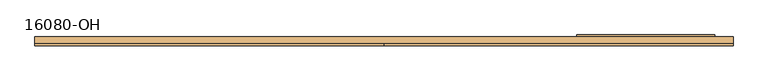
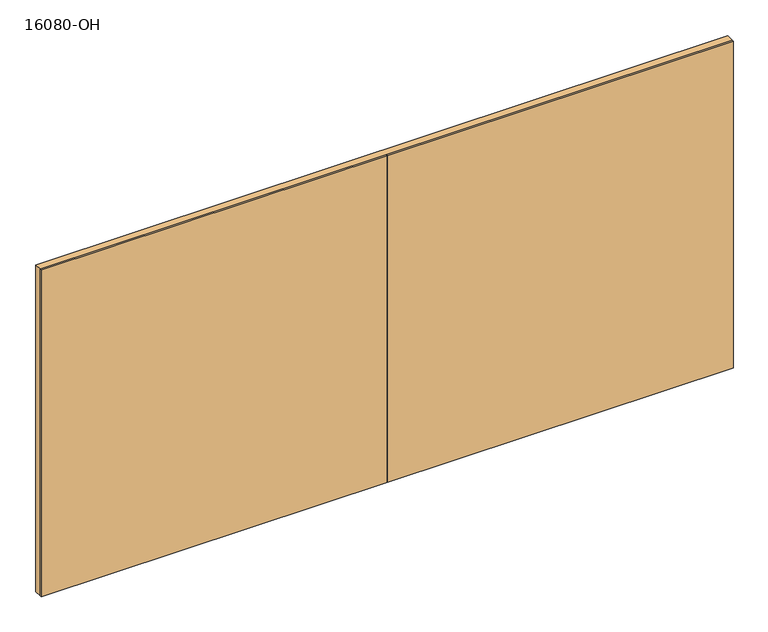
"""IFC4 building model written with IfcOpenShell, lengths in millimetres: door geometry, Upward sectional garage door : 16080-OH."""

from ifc_helpers import new_model, si_unit, frame, origin, origin_with_axes, place, context, project, spatial, polyline, ellipse_curve, outline, extrude, faceted_brep, source, transform, mapped, element, save
from ifc_brep_helpers import plane_surface, cylinder_surface, advanced_brep


def door_16080_oh_d65ba709(model_context):
    return source(origin(), model_context, "Body", "SolidModel", [
        advanced_brep(
        [(2308.225, -141.2875, 1889.125), (2298.7, -150.8125, 1898.65), (2298.7, -150.8125, 2298.7), (2308.225, -141.2875, 2308.225), (2308.225, -138.1125, 2308.225), (2308.225, -138.1125, 1889.125), (2311.4, -150.8125, 1885.95), (2311.4, -138.1125, 1885.95), (2311.4, -138.1125, 2311.4), (2311.4, -150.8125, 2311.4), (1358.9, -150.8125, 2298.7), (1349.375, -141.2875, 2308.225), (1349.375, -138.1125, 2308.225), (1346.2, -138.1125, 2311.4), (1346.2, -150.8125, 2311.4), (1358.9, -150.8125, 1898.65), (1349.375, -141.2875, 1889.125), (1349.375, -138.1125, 1889.125), (1346.2, -138.1125, 1885.95), (1346.2, -150.8125, 1885.95)],
        [
            (0, 1, ellipse_curve(frame((2308.225, -150.8125, 1889.125), z_axis=(0.7071067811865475, 0.0, 0.7071067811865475), x_axis=(0.7071067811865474, 0.0, -0.7071067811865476)), 13.4703842, 9.525)),
            (1, 2),
            (2, 3, ellipse_curve(frame((2308.225, -150.8125, 2308.225), z_axis=(0.7071067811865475, 0.0, -0.7071067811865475), x_axis=(-0.7071067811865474, 0.0, -0.7071067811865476)), 13.4703842, 9.525)),
            (3, 0),
            (3, 4),
            (4, 5),
            (5, 0),
            (6, 7),
            (7, 8),
            (8, 9),
            (9, 6),
            (2, 10),
            (10, 11, ellipse_curve(frame((1349.375, -150.8125, 2308.225), z_axis=(0.7071067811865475, 0.0, 0.7071067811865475), x_axis=(0.7071067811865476, 0.0, -0.7071067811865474)), 13.4703842, 9.525)),
            (11, 3),
            (11, 12),
            (12, 4),
            (8, 13),
            (13, 14),
            (14, 9),
            (10, 15),
            (15, 16, ellipse_curve(frame((1349.375, -150.8125, 1889.125), z_axis=(-0.7071067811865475, 0.0, 0.7071067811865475), x_axis=(0.7071067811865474, 0.0, 0.7071067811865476)), 13.4703842, 9.525)),
            (16, 11),
            (16, 17),
            (17, 12),
            (13, 18),
            (18, 19),
            (19, 14),
            (19, 6),
            (1, 15),
            (0, 16),
            (5, 17),
            (7, 18),
        ],
        [
            cylinder_surface(frame((2308.225, -150.8125, 1885.95), z_axis=(0.0, 0.0, -1.0), x_axis=(1.0, 0.0, 0.0)), 9.525),
            plane_surface(frame((2308.225, -141.2875, 1889.125), z_axis=(-1.0, 0.0, 0.0), x_axis=(0.0, 0.0, 1.0))),
            plane_surface(frame((2311.4, -138.1125, 1885.95), z_axis=(1.0, 0.0, 0.0), x_axis=(0.0, 0.0, 1.0))),
            cylinder_surface(frame((2311.4, -150.8125, 2308.225), z_axis=(1.0, 0.0, 0.0), x_axis=(0.0, 0.0, 1.0)), 9.525),
            plane_surface(frame((2308.225, -141.2875, 2308.225), z_axis=(0.0, 0.0, -1.0), x_axis=(-1.0, 0.0, 0.0))),
            plane_surface(frame((2311.4, -138.1125, 2311.4), z_axis=(0.0, 0.0, 1.0), x_axis=(-1.0, 0.0, 0.0))),
            cylinder_surface(frame((1349.375, -150.8125, 2311.4), z_axis=(0.0, 0.0, 1.0), x_axis=(-1.0, 0.0, 0.0)), 9.525),
            plane_surface(frame((1349.375, -141.2875, 2308.225), z_axis=(1.0, 0.0, 0.0), x_axis=(0.0, 0.0, -1.0))),
            plane_surface(frame((1346.2, -138.1125, 2311.4), z_axis=(-1.0, 0.0, 0.0), x_axis=(0.0, 0.0, -1.0))),
            plane_surface(frame((1346.2, -150.8125, 1885.95), z_axis=(0.0, -1.0, 0.0), x_axis=(1.0, 0.0, 0.0))),
            cylinder_surface(frame((1346.2, -150.8125, 1889.125), z_axis=(-1.0, 0.0, 0.0), x_axis=(0.0, 0.0, -1.0)), 9.525),
            plane_surface(frame((1349.375, -141.2875, 1889.125), z_axis=(0.0, 0.0, 1.0), x_axis=(1.0, 0.0, 0.0))),
            plane_surface(frame((1349.375, -138.1125, 1889.125), z_axis=(0.0, 1.0, 0.0), x_axis=(1.0, 0.0, 0.0))),
            plane_surface(frame((1346.2, -138.1125, 1885.95), z_axis=(0.0, 0.0, -1.0), x_axis=(1.0, 0.0, 0.0))),
        ],
        [
            (0, [[1, 2, 3, 4]]),
            (1, [[-4, 5, 6, 7]]),
            (2, [[8, 9, 10, 11]]),
            (3, [[-3, 12, 13, 14]]),
            (4, [[-5, -14, 15, 16]]),
            (5, [[-10, 17, 18, 19]]),
            (6, [[-13, 20, 21, 22]]),
            (7, [[-15, -22, 23, 24]]),
            (8, [[-18, 25, 26, 27]]),
            (9, [[-11, -19, -27, 28], [-2, 29, -20, -12]]),
            (10, [[-1, 30, -21, -29]]),
            (11, [[-7, 31, -23, -30]]),
            (12, [[-9, 32, -25, -17], [-6, -16, -24, -31]]),
            (13, [[-8, -28, -26, -32]]),
        ],
    ),
        advanced_brep(
        [(2308.225, -141.2875, 1768.475), (2308.225, -138.1125, 1768.475), (2308.225, -138.1125, 1009.65), (2308.225, -141.2875, 1009.65), (2298.7, -150.8125, 1019.175), (2298.7, -150.8125, 1758.95), (2311.4, -138.1125, 1771.65), (2311.4, -150.8125, 1771.65), (2311.4, -150.8125, 1006.475), (2311.4, -138.1125, 1006.475), (1349.375, -138.1125, 1009.65), (1349.375, -141.2875, 1009.65), (1358.9, -150.8125, 1019.175), (1346.2, -150.8125, 1006.475), (1346.2, -138.1125, 1006.475), (1349.375, -138.1125, 1768.475), (1349.375, -141.2875, 1768.475), (1358.9, -150.8125, 1758.95), (1346.2, -150.8125, 1771.65), (1346.2, -138.1125, 1771.65)],
        [
            (0, 1),
            (1, 2),
            (2, 3),
            (3, 0),
            (3, 4, ellipse_curve(frame((2308.225, -150.8125, 1009.65), z_axis=(0.7071067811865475, 0.0, 0.7071067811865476), x_axis=(-0.7071067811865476, 0.0, 0.7071067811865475)), 13.4703842, 9.525)),
            (4, 5),
            (5, 0, ellipse_curve(frame((2308.225, -150.8125, 1768.475), z_axis=(0.7071067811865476, 0.0, -0.7071067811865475), x_axis=(0.7071067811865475, 0.0, 0.7071067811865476)), 13.4703842, 9.525)),
            (6, 7),
            (7, 8),
            (8, 9),
            (9, 6),
            (2, 10),
            (10, 11),
            (11, 3),
            (11, 12, ellipse_curve(frame((1349.375, -150.8125, 1009.65), z_axis=(0.7071067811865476, 0.0, -0.7071067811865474), x_axis=(0.7071067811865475, 0.0, 0.7071067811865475)), 13.4703842, 9.525)),
            (12, 4),
            (8, 13),
            (13, 14),
            (14, 9),
            (10, 15),
            (15, 16),
            (16, 11),
            (16, 17, ellipse_curve(frame((1349.375, -150.8125, 1768.475), z_axis=(-0.7071067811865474, 0.0, -0.7071067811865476), x_axis=(0.7071067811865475, 0.0, -0.7071067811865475)), 13.4703842, 9.525)),
            (17, 12),
            (13, 18),
            (18, 19),
            (19, 14),
            (19, 6),
            (1, 15),
            (0, 16),
            (5, 17),
            (7, 18),
        ],
        [
            plane_surface(frame((2308.225, -138.1125, 1768.475), z_axis=(-1.0, 0.0, 0.0), x_axis=(0.0, 0.0, -1.0))),
            cylinder_surface(frame((2308.225, -150.8125, 1771.65), z_axis=(0.0, 0.0, 1.0), x_axis=(-1.0, 0.0, 0.0)), 9.525),
            plane_surface(frame((2311.4, -150.8125, 1771.65), z_axis=(1.0, 0.0, 0.0), x_axis=(0.0, 0.0, -1.0))),
            plane_surface(frame((2308.225, -138.1125, 1009.65), z_axis=(0.0, 0.0, 1.0), x_axis=(-1.0, 0.0, 0.0))),
            cylinder_surface(frame((2311.4, -150.8125, 1009.65), z_axis=(1.0, 0.0, 0.0), x_axis=(0.0, 0.0, 1.0)), 9.525),
            plane_surface(frame((2311.4, -150.8125, 1006.475), z_axis=(0.0, 0.0, -1.0), x_axis=(-1.0, 0.0, 0.0))),
            plane_surface(frame((1349.375, -138.1125, 1009.65), z_axis=(1.0, 0.0, 0.0), x_axis=(0.0, 0.0, 1.0))),
            cylinder_surface(frame((1349.375, -150.8125, 1006.475), z_axis=(0.0, 0.0, -1.0), x_axis=(1.0, 0.0, 0.0)), 9.525),
            plane_surface(frame((1346.2, -150.8125, 1006.475), z_axis=(-1.0, 0.0, 0.0), x_axis=(0.0, 0.0, 1.0))),
            plane_surface(frame((1346.2, -138.1125, 1771.65), z_axis=(0.0, 1.0, 0.0), x_axis=(1.0, 0.0, 0.0))),
            plane_surface(frame((1349.375, -138.1125, 1768.475), z_axis=(0.0, 0.0, -1.0), x_axis=(1.0, 0.0, 0.0))),
            cylinder_surface(frame((1346.2, -150.8125, 1768.475), z_axis=(-1.0, 0.0, 0.0), x_axis=(0.0, 0.0, -1.0)), 9.525),
            plane_surface(frame((1358.9, -150.8125, 1758.95), z_axis=(0.0, -1.0, 0.0), x_axis=(1.0, 0.0, 0.0))),
            plane_surface(frame((1346.2, -150.8125, 1771.65), z_axis=(0.0, 0.0, 1.0), x_axis=(1.0, 0.0, 0.0))),
        ],
        [
            (0, [[1, 2, 3, 4]]),
            (1, [[-4, 5, 6, 7]]),
            (2, [[8, 9, 10, 11]]),
            (3, [[-3, 12, 13, 14]]),
            (4, [[-5, -14, 15, 16]]),
            (5, [[-10, 17, 18, 19]]),
            (6, [[-13, 20, 21, 22]]),
            (7, [[-15, -22, 23, 24]]),
            (8, [[-18, 25, 26, 27]]),
            (9, [[-11, -19, -27, 28], [-2, 29, -20, -12]]),
            (10, [[-1, 30, -21, -29]]),
            (11, [[-7, 31, -23, -30]]),
            (12, [[-9, 32, -25, -17], [-6, -16, -24, -31]]),
            (13, [[-8, -28, -26, -32]]),
        ],
    ),
        advanced_brep(
        [(2311.4, -138.1125, 892.175), (2311.4, -150.8125, 892.175), (2311.4, -150.8125, 127.0), (2311.4, -138.1125, 127.0), (2308.225, -141.2875, 889.0), (2308.225, -138.1125, 889.0), (2308.225, -138.1125, 130.175), (2308.225, -141.2875, 130.175), (2298.7, -150.8125, 139.7), (2298.7, -150.8125, 879.475), (1346.2, -150.8125, 127.0), (1346.2, -138.1125, 127.0), (1349.375, -138.1125, 130.175), (1349.375, -141.2875, 130.175), (1358.9, -150.8125, 139.7), (1346.2, -150.8125, 892.175), (1346.2, -138.1125, 892.175), (1349.375, -138.1125, 889.0), (1349.375, -141.2875, 889.0), (1358.9, -150.8125, 879.475)],
        [
            (0, 1),
            (1, 2),
            (2, 3),
            (3, 0),
            (4, 5),
            (5, 6),
            (6, 7),
            (7, 4),
            (7, 8, ellipse_curve(frame((2308.225, -150.8125, 130.175), z_axis=(0.7071067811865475, 0.0, 0.7071067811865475), x_axis=(-0.7071067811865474, 0.0, 0.7071067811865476)), 13.4703842, 9.525)),
            (8, 9),
            (9, 4, ellipse_curve(frame((2308.225, -150.8125, 889.0), z_axis=(0.7071067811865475, 0.0, -0.7071067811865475), x_axis=(0.7071067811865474, 0.0, 0.7071067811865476)), 13.4703842, 9.525)),
            (2, 10),
            (10, 11),
            (11, 3),
            (6, 12),
            (12, 13),
            (13, 7),
            (13, 14, ellipse_curve(frame((1349.375, -150.8125, 130.175), z_axis=(0.7071067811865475, 0.0, -0.7071067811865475), x_axis=(0.7071067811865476, 0.0, 0.7071067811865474)), 13.4703842, 9.525)),
            (14, 8),
            (10, 15),
            (15, 16),
            (16, 11),
            (12, 17),
            (17, 18),
            (18, 13),
            (18, 19, ellipse_curve(frame((1349.375, -150.8125, 889.0), z_axis=(-0.7071067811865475, 0.0, -0.7071067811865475), x_axis=(0.7071067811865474, 0.0, -0.7071067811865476)), 13.4703842, 9.525)),
            (19, 14),
            (1, 15),
            (19, 9),
            (0, 16),
            (5, 17),
            (4, 18),
        ],
        [
            plane_surface(frame((2311.4, -150.8125, 892.175), z_axis=(1.0, 0.0, 0.0), x_axis=(0.0, 0.0, -1.0))),
            plane_surface(frame((2308.225, -138.1125, 889.0), z_axis=(-1.0, 0.0, 0.0), x_axis=(0.0, 0.0, -1.0))),
            cylinder_surface(frame((2308.225, -150.8125, 892.175), z_axis=(0.0, 0.0, 1.0), x_axis=(-1.0, 0.0, 0.0)), 9.525),
            plane_surface(frame((2311.4, -150.8125, 127.0), z_axis=(0.0, 0.0, -1.0), x_axis=(-1.0, 0.0, 0.0))),
            plane_surface(frame((2308.225, -138.1125, 130.175), z_axis=(0.0, 0.0, 1.0), x_axis=(-1.0, 0.0, 0.0))),
            cylinder_surface(frame((2311.4, -150.8125, 130.175), z_axis=(1.0, 0.0, 0.0), x_axis=(0.0, 0.0, 1.0)), 9.525),
            plane_surface(frame((1346.2, -150.8125, 127.0), z_axis=(-1.0, 0.0, 0.0), x_axis=(0.0, 0.0, 1.0))),
            plane_surface(frame((1349.375, -138.1125, 130.175), z_axis=(1.0, 0.0, 0.0), x_axis=(0.0, 0.0, 1.0))),
            cylinder_surface(frame((1349.375, -150.8125, 127.0), z_axis=(0.0, 0.0, -1.0), x_axis=(1.0, 0.0, 0.0)), 9.525),
            plane_surface(frame((1358.9, -150.8125, 879.475), z_axis=(0.0, -1.0, 0.0), x_axis=(1.0, 0.0, 0.0))),
            plane_surface(frame((1346.2, -150.8125, 892.175), z_axis=(0.0, 0.0, 1.0), x_axis=(1.0, 0.0, 0.0))),
            plane_surface(frame((1346.2, -138.1125, 892.175), z_axis=(0.0, 1.0, 0.0), x_axis=(1.0, 0.0, 0.0))),
            plane_surface(frame((1349.375, -138.1125, 889.0), z_axis=(0.0, 0.0, -1.0), x_axis=(1.0, 0.0, 0.0))),
            cylinder_surface(frame((1346.2, -150.8125, 889.0), z_axis=(-1.0, 0.0, 0.0), x_axis=(0.0, 0.0, -1.0)), 9.525),
        ],
        [
            (0, [[1, 2, 3, 4]]),
            (1, [[5, 6, 7, 8]]),
            (2, [[-8, 9, 10, 11]]),
            (3, [[-3, 12, 13, 14]]),
            (4, [[-7, 15, 16, 17]]),
            (5, [[-9, -17, 18, 19]]),
            (6, [[-13, 20, 21, 22]]),
            (7, [[-16, 23, 24, 25]]),
            (8, [[-18, -25, 26, 27]]),
            (9, [[-2, 28, -20, -12], [-10, -19, -27, 29]]),
            (10, [[-1, 30, -21, -28]]),
            (11, [[-4, -14, -22, -30], [-6, 31, -23, -15]]),
            (12, [[-5, 32, -24, -31]]),
            (13, [[-11, -29, -26, -32]]),
        ],
    ),
        extrude(outline(polyline([(2438.4, -214.3125), (0.0, -214.3125), (0.0, -201.6125), (2438.4, -201.6125), (2438.4, -214.3125)])), origin_with_axes(), (0.0, 0.0, 1.0), 2438.4),
        extrude(outline(polyline([(2311.4, -153.9875), (1346.2, -153.9875), (1346.2, -150.8125), (2311.4, -150.8125), (2311.4, -153.9875)])), frame((0.0, 0.0, 1885.95), z_axis=(0.0, 0.0, 1.0), x_axis=(1.0, 0.0, 0.0)), (0.0, 0.0, 1.0), 425.45),
        extrude(outline(polyline([(1092.2, -153.9875), (127.0, -153.9875), (127.0, -150.8125), (1092.2, -150.8125), (1092.2, -153.9875)])), frame((0.0, 0.0, 1885.95), z_axis=(0.0, 0.0, 1.0), x_axis=(1.0, 0.0, 0.0)), (0.0, 0.0, 1.0), 425.45),
        extrude(outline(polyline([(-127.0, -153.9875), (-1092.2, -153.9875), (-1092.2, -150.8125), (-127.0, -150.8125), (-127.0, -153.9875)])), frame((0.0, 0.0, 1885.95), z_axis=(0.0, 0.0, 1.0), x_axis=(1.0, 0.0, 0.0)), (0.0, 0.0, 1.0), 425.45),
        extrude(outline(polyline([(-1346.2, -153.9875), (-2311.4, -153.9875), (-2311.4, -150.8125), (-1346.2, -150.8125), (-1346.2, -153.9875)])), frame((0.0, 0.0, 1885.95), z_axis=(0.0, 0.0, 1.0), x_axis=(1.0, 0.0, 0.0)), (0.0, 0.0, 1.0), 425.45),
        extrude(outline(polyline([(0.0, -214.3125), (-2438.4, -214.3125), (-2438.4, -201.6125), (0.0, -201.6125), (0.0, -214.3125)])), origin_with_axes(), (0.0, 0.0, 1.0), 2438.4),
        extrude(outline(polyline([(-2435.225, -153.9875), (2435.225, -153.9875), (2435.225, -198.4375), (-2435.225, -198.4375), (-2435.225, -153.9875)])), origin_with_axes(), (0.0, 0.0, 1.0), 2435.225),
        faceted_brep([(2438.4, -201.6125, 0.0), (2425.7, -201.6125, 0.0), (2425.7, -198.4375, 0.0), (2435.225, -198.4375, 0.0), (2435.225, -153.9875, 0.0), (2425.7, -153.9875, 0.0), (2425.7, -150.8125, 0.0), (2438.4, -150.8125, 0.0), (2438.4, -201.6125, 2438.4), (-2438.4, -201.6125, 2438.4), (-2438.4, -201.6125, 0.0), (-2425.7, -201.6125, 0.0), (-2425.7, -201.6125, 2425.7), (2425.7, -201.6125, 2425.7), (2425.7, -198.4375, 2425.7), (-2425.7, -198.4375, 2425.7), (-2425.7, -198.4375, 0.0), (-2435.225, -198.4375, 0.0), (-2435.225, -198.4375, 2435.225), (2435.225, -198.4375, 2435.225), (2435.225, -153.9875, 2435.225), (-2435.225, -153.9875, 2435.225), (-2435.225, -153.9875, 0.0), (-2425.7, -153.9875, 0.0), (-2425.7, -153.9875, 2425.7), (2425.7, -153.9875, 2425.7), (2425.7, -150.8125, 2425.7), (-2425.7, -150.8125, 2425.7), (-2425.7, -150.8125, 0.0), (-2438.4, -150.8125, 0.0), (-2438.4, -150.8125, 2438.4), (2438.4, -150.8125, 2438.4)], [[[0, 1, 2, 3, 4, 5, 6, 7]], [[1, 0, 8, 9, 10, 11, 12, 13]], [[2, 1, 13, 14]], [[3, 2, 14, 15, 16, 17, 18, 19]], [[4, 3, 19, 20]], [[5, 4, 20, 21, 22, 23, 24, 25]], [[6, 5, 25, 26]], [[7, 6, 26, 27, 28, 29, 30, 31]], [[0, 7, 31, 8]], [[14, 13, 12, 15]], [[20, 19, 18, 21]], [[26, 25, 24, 27]], [[8, 31, 30, 9]], [[10, 29, 28, 23, 22, 17, 16, 11]], [[15, 12, 11, 16]], [[21, 18, 17, 22]], [[27, 24, 23, 28]], [[9, 30, 29, 10]]]),
    ])


if __name__ == "__main__":
    model = new_model("IFC4")
    model_context = context("Model", 3, world=origin())
    ifc_project = project(units=[si_unit("LENGTHUNIT", "METRE", prefix="MILLI")], contexts=[model_context])
    site = spatial("IfcSite", under=ifc_project)
    building = spatial("IfcBuilding", under=site)
    placement = place(None, origin())
    door_16080_oh_shape = door_16080_oh_d65ba709(model_context)
    element("IfcDoor", 1, ObjectType="Upward sectional garage door : 16080-OH", at=placement, inside=building, context=model_context, shape_type="MappedRepresentation", body=[
        mapped(door_16080_oh_shape, transform((0.0, 0.0, 0.0), x_axis=(1.0, 0.0, 0.0), y_axis=(0.0, 1.0, 0.0), z_axis=(0.0, 0.0, 1.0))),
    ])
    save(model, "model.ifc")
